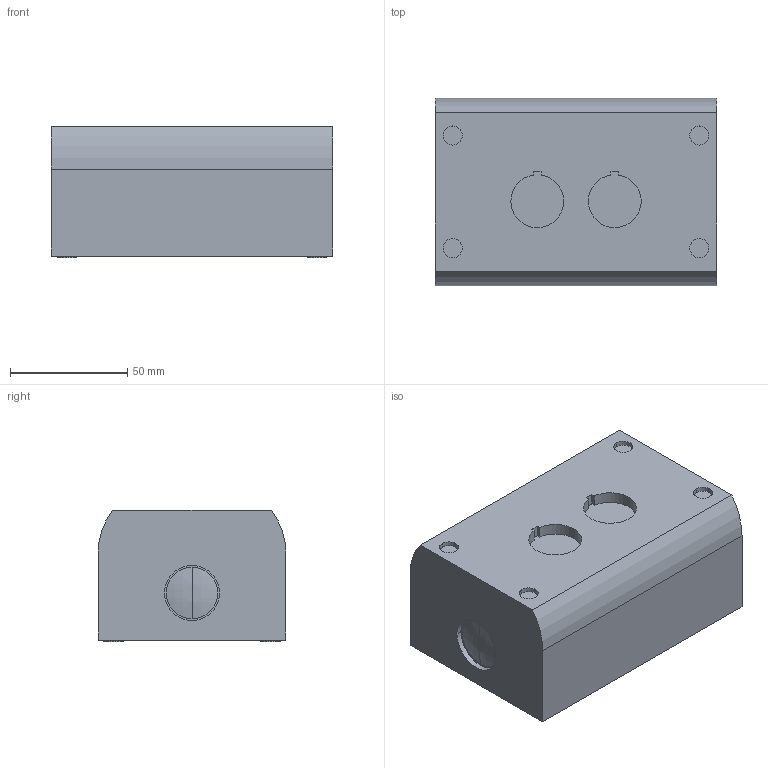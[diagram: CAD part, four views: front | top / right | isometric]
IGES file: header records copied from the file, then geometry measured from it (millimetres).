
Start section: Data from XPlus IGES,  Spatial Corp. Copyright (c) 1999-2004
Global section: file name: 216537.igs; native system:  By Spatial Corp.; preprocessor: XPlus ACIS/IGES 3.0; author: Noname; organization: Noname; date: 20120614.154344; units: millimetre
Bounding box: 120 x 80 x 56 mm (x, y, z)
Surface area: 41663.9 mm2 (no closed solid volume)
Topology: 0 solids, 0 shells, 68 faces, 292 edges, 288 vertices
Faces by surface type: revolution 41, extrusion 27
